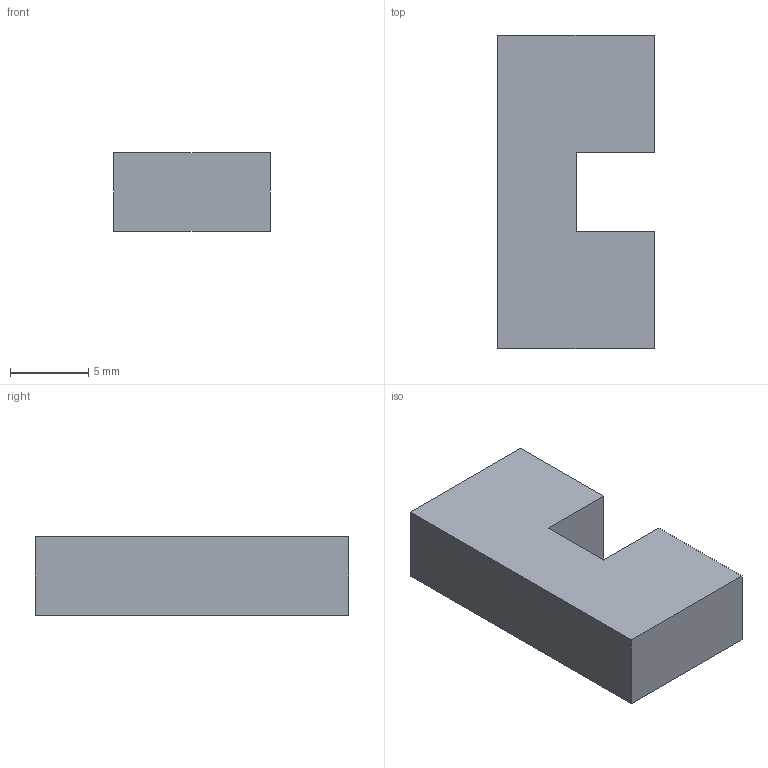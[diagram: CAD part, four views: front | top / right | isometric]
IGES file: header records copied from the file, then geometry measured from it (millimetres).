
Start section: SolidWorks IGES file using analytic representation for surfaces
Global section: file name: C:\Users\fablab-info\Desktop\Miroir cylindro-parabolique\IGS 3D\teton.IGS; native system: SolidWorks 2017; preprocessor: SolidWorks 2017; author: fablab-info; date: 190712.155529; units: millimetre
Bounding box: 10 x 20 x 5 mm (x, y, z)
Surface area: 700 mm2 (no closed solid volume)
Topology: 0 solids, 0 shells, 10 faces, 48 edges, 48 vertices
Faces by surface type: bspline 10
